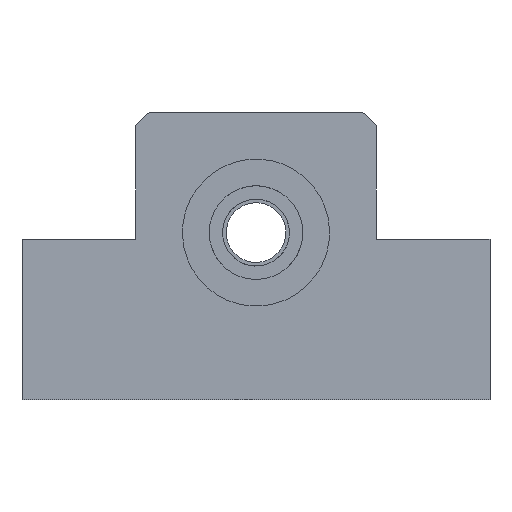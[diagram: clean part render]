
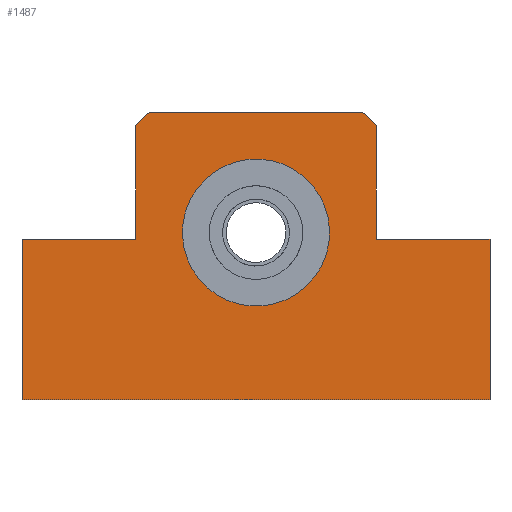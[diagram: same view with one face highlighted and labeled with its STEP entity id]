
A CAD part, left-side view. The second image highlights one B-rep face of the part: STEP entity #1487.
In plain terms, the highlighted planar face has unit normal (-1, 0, 0).
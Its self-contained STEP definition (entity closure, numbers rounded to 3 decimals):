
#880=CARTESIAN_POINT('Line Origine',(-24.,-18.,7.5)) ;
#884=CARTESIAN_POINT('Vertex',(-24.,-18.,16.)) ;
#886=CARTESIAN_POINT('Vertex',(-24.,-18.,-1.)) ;
#911=CARTESIAN_POINT('Line Origine',(-24.,-26.5,-1.)) ;
#915=CARTESIAN_POINT('Vertex',(-24.,-35.,-1.)) ;
#995=CARTESIAN_POINT('Line Origine',(-24.,-35.,-13.)) ;
#999=CARTESIAN_POINT('Vertex',(-24.,-35.,-25.)) ;
#1019=CARTESIAN_POINT('Line Origine',(-24.,0.,-25.)) ;
#1023=CARTESIAN_POINT('Vertex',(-24.,35.,-25.)) ;
#1163=CARTESIAN_POINT('Line Origine',(-24.,35.,-13.)) ;
#1167=CARTESIAN_POINT('Vertex',(-24.,35.,-1.)) ;
#1182=CARTESIAN_POINT('Line Origine',(-24.,26.5,-1.)) ;
#1186=CARTESIAN_POINT('Vertex',(-24.,18.,-1.)) ;
#1266=CARTESIAN_POINT('Line Origine',(-24.,18.,7.5)) ;
#1270=CARTESIAN_POINT('Vertex',(-24.,18.,16.)) ;
#1294=CARTESIAN_POINT('Vertex',(-24.,16.,18.)) ;
#1297=CARTESIAN_POINT('Line Origine',(-24.,17.,17.)) ;
#1314=CARTESIAN_POINT('Line Origine',(-24.,0.,18.)) ;
#1318=CARTESIAN_POINT('Vertex',(-24.,-16.,18.)) ;
#1338=CARTESIAN_POINT('Line Origine',(-24.,-17.,17.)) ;
#1410=CARTESIAN_POINT('Axis2P3D Location',(-24.,0.,0.)) ;
#1428=CARTESIAN_POINT('Control Point',(-24.,-9.653,-5.274)) ;
#1429=CARTESIAN_POINT('Control Point',(-24.,-9.108,-6.272)) ;
#1430=CARTESIAN_POINT('Control Point',(-24.,-8.434,-7.199)) ;
#1431=CARTESIAN_POINT('Control Point',(-24.,-7.643,-8.034)) ;
#1432=CARTESIAN_POINT('Control Point',(-24.,-5.863,-9.481)) ;
#1433=CARTESIAN_POINT('Control Point',(-24.,-3.773,-10.427)) ;
#1434=CARTESIAN_POINT('Control Point',(-24.,-2.673,-10.762)) ;
#1435=CARTESIAN_POINT('Control Point',(-24.,-0.41,-11.139)) ;
#1436=CARTESIAN_POINT('Control Point',(-24.,1.874,-10.929)) ;
#1437=CARTESIAN_POINT('Control Point',(-24.,2.996,-10.677)) ;
#1438=CARTESIAN_POINT('Control Point',(-24.,5.149,-9.887)) ;
#1439=CARTESIAN_POINT('Control Point',(-24.,7.031,-8.575)) ;
#1440=CARTESIAN_POINT('Control Point',(-24.,7.881,-7.801)) ;
#1441=CARTESIAN_POINT('Control Point',(-24.,9.363,-6.05)) ;
#1442=CARTESIAN_POINT('Control Point',(-24.,10.35,-3.979)) ;
#1443=CARTESIAN_POINT('Control Point',(-24.,10.707,-2.886)) ;
#1444=CARTESIAN_POINT('Control Point',(-24.,11.129,-0.631)) ;
#1445=CARTESIAN_POINT('Control Point',(-24.,10.964,1.656)) ;
#1446=CARTESIAN_POINT('Control Point',(-24.,10.734,2.783)) ;
#1447=CARTESIAN_POINT('Control Point',(-24.,10.332,3.951)) ;
#1448=CARTESIAN_POINT('Control Point',(-24.,9.777,5.043)) ;
#1449=CARTESIAN_POINT('Control Point',(-24.,9.736,5.12)) ;
#1450=CARTESIAN_POINT('Control Point',(-24.,9.695,5.197)) ;
#1451=CARTESIAN_POINT('Control Point',(-24.,9.653,5.274)) ;
#1452=CARTESIAN_POINT('Vertex',(-24.,-9.653,-5.274)) ;
#1454=CARTESIAN_POINT('Vertex',(-24.,9.653,5.274)) ;
#1458=CARTESIAN_POINT('Control Point',(-24.,9.653,5.274)) ;
#1459=CARTESIAN_POINT('Control Point',(-24.,9.108,6.272)) ;
#1460=CARTESIAN_POINT('Control Point',(-24.,8.434,7.199)) ;
#1461=CARTESIAN_POINT('Control Point',(-24.,7.643,8.034)) ;
#1462=CARTESIAN_POINT('Control Point',(-24.,5.863,9.481)) ;
#1463=CARTESIAN_POINT('Control Point',(-24.,3.773,10.427)) ;
#1464=CARTESIAN_POINT('Control Point',(-24.,2.673,10.762)) ;
#1465=CARTESIAN_POINT('Control Point',(-24.,0.41,11.139)) ;
#1466=CARTESIAN_POINT('Control Point',(-24.,-1.874,10.929)) ;
#1467=CARTESIAN_POINT('Control Point',(-24.,-2.996,10.677)) ;
#1468=CARTESIAN_POINT('Control Point',(-24.,-5.149,9.887)) ;
#1469=CARTESIAN_POINT('Control Point',(-24.,-7.031,8.575)) ;
#1470=CARTESIAN_POINT('Control Point',(-24.,-7.881,7.801)) ;
#1471=CARTESIAN_POINT('Control Point',(-24.,-9.363,6.05)) ;
#1472=CARTESIAN_POINT('Control Point',(-24.,-10.35,3.979)) ;
#1473=CARTESIAN_POINT('Control Point',(-24.,-10.707,2.886)) ;
#1474=CARTESIAN_POINT('Control Point',(-24.,-11.129,0.631)) ;
#1475=CARTESIAN_POINT('Control Point',(-24.,-10.964,-1.656)) ;
#1476=CARTESIAN_POINT('Control Point',(-24.,-10.734,-2.783)) ;
#1477=CARTESIAN_POINT('Control Point',(-24.,-10.332,-3.951)) ;
#1478=CARTESIAN_POINT('Control Point',(-24.,-9.777,-5.043)) ;
#1479=CARTESIAN_POINT('Control Point',(-24.,-9.736,-5.12)) ;
#1480=CARTESIAN_POINT('Control Point',(-24.,-9.695,-5.197)) ;
#1481=CARTESIAN_POINT('Control Point',(-24.,-9.653,-5.274)) ;
#881=DIRECTION('Vector Direction',(0.,0.,1.)) ;
#912=DIRECTION('Vector Direction',(0.,1.,0.)) ;
#996=DIRECTION('Vector Direction',(0.,0.,1.)) ;
#1020=DIRECTION('Vector Direction',(0.,-1.,0.)) ;
#1164=DIRECTION('Vector Direction',(0.,0.,-1.)) ;
#1183=DIRECTION('Vector Direction',(0.,1.,0.)) ;
#1267=DIRECTION('Vector Direction',(0.,0.,-1.)) ;
#1298=DIRECTION('Vector Direction',(0.,-0.707,0.707)) ;
#1315=DIRECTION('Vector Direction',(0.,1.,0.)) ;
#1339=DIRECTION('Vector Direction',(0.,-0.707,-0.707)) ;
#1411=DIRECTION('Axis2P3D Direction',(1.,0.,0.)) ;
#1412=DIRECTION('Axis2P3D XDirection',(0.,1.,0.)) ;
#1413=AXIS2_PLACEMENT_3D('Plane Axis2P3D',#1410,#1411,#1412) ;
#1416=ORIENTED_EDGE('',*,*,#1342,.F.) ;
#1417=ORIENTED_EDGE('',*,*,#1320,.F.) ;
#1418=ORIENTED_EDGE('',*,*,#1301,.F.) ;
#1419=ORIENTED_EDGE('',*,*,#1272,.F.) ;
#1420=ORIENTED_EDGE('',*,*,#1188,.F.) ;
#1421=ORIENTED_EDGE('',*,*,#1169,.F.) ;
#1422=ORIENTED_EDGE('',*,*,#1025,.F.) ;
#1423=ORIENTED_EDGE('',*,*,#1001,.F.) ;
#1424=ORIENTED_EDGE('',*,*,#917,.F.) ;
#1425=ORIENTED_EDGE('',*,*,#888,.F.) ;
#1484=ORIENTED_EDGE('',*,*,#1456,.T.) ;
#1485=ORIENTED_EDGE('',*,*,#1482,.T.) ;
#1486=FACE_BOUND('',#1483,.T.) ;
#882=VECTOR('Line Direction',#881,1.) ;
#913=VECTOR('Line Direction',#912,1.) ;
#997=VECTOR('Line Direction',#996,1.) ;
#1021=VECTOR('Line Direction',#1020,1.) ;
#1165=VECTOR('Line Direction',#1164,1.) ;
#1184=VECTOR('Line Direction',#1183,1.) ;
#1268=VECTOR('Line Direction',#1267,1.) ;
#1299=VECTOR('Line Direction',#1298,1.) ;
#1316=VECTOR('Line Direction',#1315,1.) ;
#1340=VECTOR('Line Direction',#1339,1.) ;
#1487=ADVANCED_FACE('EK10(H)',(#1426,#1486),#1414,.F.) ;
#1427=B_SPLINE_CURVE_WITH_KNOTS('',5,(#1428,#1429,#1430,#1431,#1432,#1433,#1434,#1435,#1436,#1437,#1438,#1439,#1440,#1441,#1442,#1443,#1444,#1445,#1446,#1447,#1448,#1449,#1450,#1451),.UNSPECIFIED.,.F.,.U.,(6,3,3,3,3,3,3,6),(0.,8.042,16.085,24.127,32.169,40.211,48.254,48.871),.UNSPECIFIED.) ;
#1457=B_SPLINE_CURVE_WITH_KNOTS('',5,(#1458,#1459,#1460,#1461,#1462,#1463,#1464,#1465,#1466,#1467,#1468,#1469,#1470,#1471,#1472,#1473,#1474,#1475,#1476,#1477,#1478,#1479,#1480,#1481),.UNSPECIFIED.,.F.,.U.,(6,3,3,3,3,3,3,6),(0.,8.042,16.085,24.127,32.169,40.211,48.254,48.871),.UNSPECIFIED.) ;
#888=EDGE_CURVE('',#885,#887,#883,.F.) ;
#917=EDGE_CURVE('',#887,#916,#914,.F.) ;
#1001=EDGE_CURVE('',#916,#1000,#998,.F.) ;
#1025=EDGE_CURVE('',#1000,#1024,#1022,.F.) ;
#1169=EDGE_CURVE('',#1024,#1168,#1166,.F.) ;
#1188=EDGE_CURVE('',#1168,#1187,#1185,.F.) ;
#1272=EDGE_CURVE('',#1187,#1271,#1269,.F.) ;
#1301=EDGE_CURVE('',#1271,#1295,#1300,.T.) ;
#1320=EDGE_CURVE('',#1295,#1319,#1317,.F.) ;
#1342=EDGE_CURVE('',#1319,#885,#1341,.T.) ;
#1456=EDGE_CURVE('',#1453,#1455,#1427,.T.) ;
#1482=EDGE_CURVE('',#1455,#1453,#1457,.T.) ;
#1415=EDGE_LOOP('',(#1416,#1417,#1418,#1419,#1420,#1421,#1422,#1423,#1424,#1425)) ;
#1483=EDGE_LOOP('',(#1484,#1485)) ;
#1426=FACE_OUTER_BOUND('',#1415,.T.) ;
#883=LINE('Line',#880,#882) ;
#914=LINE('Line',#911,#913) ;
#998=LINE('Line',#995,#997) ;
#1022=LINE('Line',#1019,#1021) ;
#1166=LINE('Line',#1163,#1165) ;
#1185=LINE('Line',#1182,#1184) ;
#1269=LINE('Line',#1266,#1268) ;
#1300=LINE('Line',#1297,#1299) ;
#1317=LINE('Line',#1314,#1316) ;
#1341=LINE('Line',#1338,#1340) ;
#1414=PLANE('Plane',#1413) ;
#885=VERTEX_POINT('',#884) ;
#887=VERTEX_POINT('',#886) ;
#916=VERTEX_POINT('',#915) ;
#1000=VERTEX_POINT('',#999) ;
#1024=VERTEX_POINT('',#1023) ;
#1168=VERTEX_POINT('',#1167) ;
#1187=VERTEX_POINT('',#1186) ;
#1271=VERTEX_POINT('',#1270) ;
#1295=VERTEX_POINT('',#1294) ;
#1319=VERTEX_POINT('',#1318) ;
#1453=VERTEX_POINT('',#1452) ;
#1455=VERTEX_POINT('',#1454) ;
